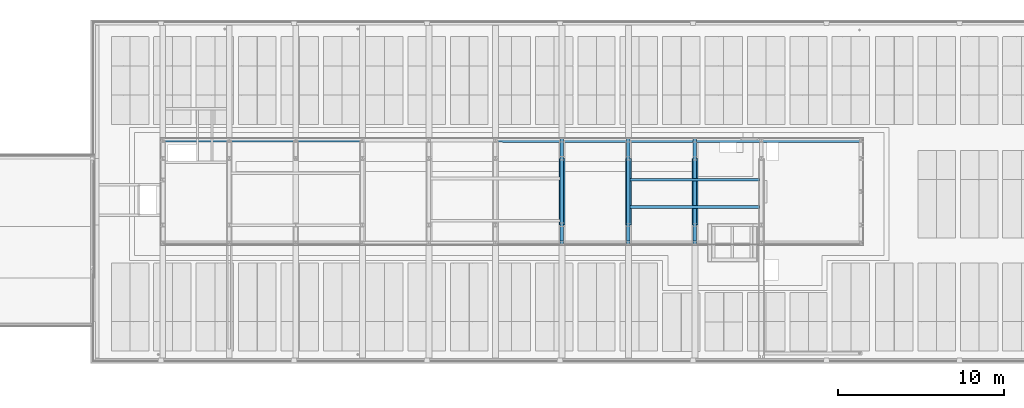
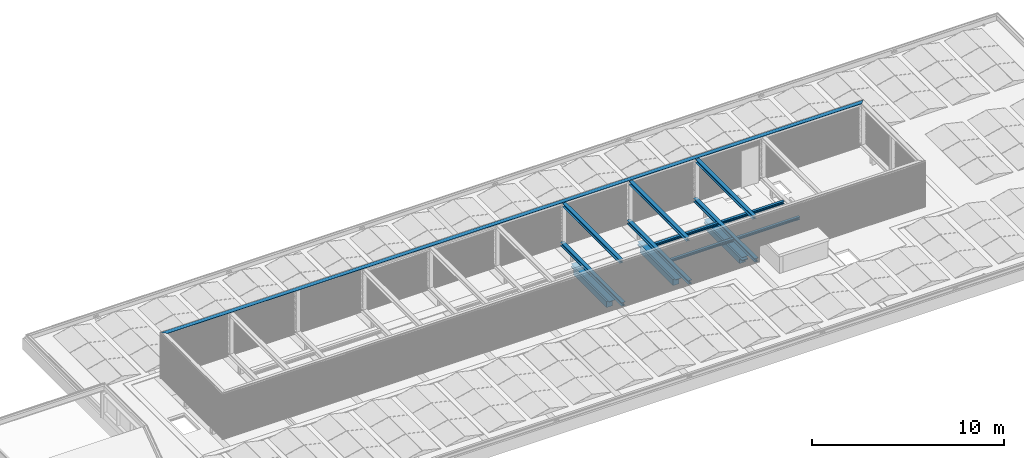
# One storey, part 12 of 63: 12 beams.
"""IFC2X3 building model written with IfcOpenShell, lengths in millimetres."""

from ifc_helpers import new_model, entity, si_unit, converted_unit, derived_unit, money_unit, direction, frame, origin_with_axes, place, context, subcontext, project, spatial, faceted_brep, material, type_object, element, save


model = new_model("IFC2X3")

# Units and contexts
model_context = context("Model", 3, precision=0.01, world=origin_with_axes(), true_north=direction((0.0, 1.0)))
body_context = subcontext(model_context, "Body", "Model", "MODEL_VIEW")
ifc_project = project(units=[si_unit("LENGTHUNIT", "METRE", prefix="MILLI"), si_unit("AREAUNIT", "SQUARE_METRE"), si_unit("VOLUMEUNIT", "CUBIC_METRE"), converted_unit("PLANEANGLEUNIT", "DEGREE", entity("IfcPlaneAngleMeasure", 0.0174532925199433), si_unit("PLANEANGLEUNIT", "RADIAN"), dimensions=[0, 0, 0, 0, 0, 0, 0]), money_unit("EUR"), converted_unit("TIMEUNIT", "Year", entity("IfcTimeMeasure", 31557600.0), si_unit("TIMEUNIT", "SECOND"), dimensions=[0, 0, 1, 0, 0, 0, 0]), si_unit("MASSUNIT", "GRAM", prefix="KILO"), si_unit("THERMODYNAMICTEMPERATUREUNIT", "DEGREE_CELSIUS"), si_unit("LUMINOUSINTENSITYUNIT", "LUMEN"), si_unit("ENERGYUNIT", "JOULE", prefix="MEGA"), derived_unit("THERMALCONDUCTANCEUNIT", [(si_unit("POWERUNIT", "WATT"), 1), (si_unit("LENGTHUNIT", "METRE"), -1), (si_unit("THERMODYNAMICTEMPERATUREUNIT", "KELVIN"), -1)]), derived_unit("SPECIFICHEATCAPACITYUNIT", [(si_unit("ENERGYUNIT", "JOULE"), 1), (si_unit("MASSUNIT", "GRAM", prefix="KILO"), -1), (si_unit("THERMODYNAMICTEMPERATUREUNIT", "KELVIN"), -1)]), derived_unit("MASSDENSITYUNIT", [(si_unit("MASSUNIT", "GRAM", prefix="KILO"), 1), (si_unit("VOLUMEUNIT", "CUBIC_METRE"), -1)])], contexts=[model_context])

# Site, building, storey
site_placement = place(None, origin_with_axes())
site = spatial("IfcSite", under=ifc_project, at=site_placement, Name="<site naam>", CompositionType="ELEMENT")
building_placement = place(site_placement, origin_with_axes())
building = spatial("IfcBuilding", under=site, at=building_placement, Name="<Naam gebouw>", CompositionType="ELEMENT")
storey_placement = place(building_placement, frame((0.0, 0.0, 12770.0), z_axis=(0.0, 0.0, 1.0), x_axis=(1.0, 0.0, 0.0)))
storey = spatial("IfcBuildingStorey", under=building, at=storey_placement, Name="04 4e verdieping", CompositionType="ELEMENT", Elevation=12770.0)

# Beams
ifc_material_1 = material(Name="staal C")
beam_type_1 = type_object("IfcBeamType", Name="HEB220 220 x 220", PredefinedType="BEAM")
beam_1_placement = place(storey_placement, frame((40000.00000000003, 13207.85679888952, 444.1514325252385), z_axis=(0.0, 0.0, 1.0), x_axis=(-1.0, 0.0, 0.0)))
element("IfcBeam", 1, at=beam_1_placement, inside=storey, type_object=beam_type_1, material=ifc_material_1, Name="Info_Balk_HEB220", ObjectType="BEAM", context=body_context, shape_type="Brep", body=[
    faceted_brep([(-109.9999999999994, 0.0, 115.5000000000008), (-109.9999999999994, 6400.00001151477, 115.5000000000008), (-109.9999999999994, 6400.00001151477, 99.50000000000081), (-109.9999999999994, 0.0, 99.50000000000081), (109.9999999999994, 0.0, 115.5000000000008), (109.9999999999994, 6400.00001151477, 115.5000000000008), (109.9999999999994, 6400.00001151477, 99.50000000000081), (4.750000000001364, 6400.00001151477, 99.50000000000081), (4.750000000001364, 6400.00001151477, -88.4999999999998), (109.9999999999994, 6400.00001151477, -88.4999999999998), (109.9999999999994, 6400.00001151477, -104.4999999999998), (-109.9999999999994, 6400.00001151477, -104.4999999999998), (-109.9999999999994, 6400.00001151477, -88.4999999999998), (-4.750000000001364, 6400.00001151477, -88.4999999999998), (-4.750000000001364, 6400.00001151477, 99.50000000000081), (-4.750000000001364, 0.0, 99.50000000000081), (-4.750000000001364, 0.0, -88.4999999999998), (-109.9999999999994, 0.0, -88.4999999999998), (-109.9999999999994, 0.0, -104.4999999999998), (109.9999999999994, 0.0, -104.4999999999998), (109.9999999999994, 0.0, -88.4999999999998), (4.750000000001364, 0.0, -88.4999999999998), (4.750000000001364, 0.0, 99.50000000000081), (109.9999999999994, 0.0, 99.50000000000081)], [[[0, 1, 2, 3]], [[4, 5, 1, 0]], [[2, 1, 5, 6, 7, 8, 9, 10, 11, 12, 13, 14]], [[3, 2, 14, 15]], [[4, 0, 3, 15, 16, 17, 18, 19, 20, 21, 22, 23]], [[23, 6, 5, 4]], [[22, 7, 6, 23]], [[21, 8, 7, 22]], [[20, 9, 8, 21]], [[19, 10, 9, 20]], [[18, 11, 10, 19]], [[17, 12, 11, 18]], [[16, 13, 12, 17]], [[15, 14, 13, 16]]]),
])
beam_2_placement = place(storey_placement, frame((40000.00000000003, 12987.85678737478, 3039.88580884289), z_axis=(0.0, 0.0, 1.0), x_axis=(-1.0, 0.0, 0.0)))
element("IfcBeam", 2, at=beam_2_placement, inside=storey, type_object=beam_type_1, material=ifc_material_1, Name="Info_Balk_HEB220", ObjectType="BEAM", context=body_context, shape_type="Brep", body=[
    faceted_brep([(-109.9999999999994, 0.0, 115.5000000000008), (-109.9999999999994, 5960.000000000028, 115.5000000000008), (-109.9999999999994, 5960.000000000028, 99.50000000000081), (-109.9999999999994, 0.0, 99.50000000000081), (109.9999999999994, 0.0, 115.5000000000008), (109.9999999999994, 5960.000000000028, 115.5000000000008), (109.9999999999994, 5960.000000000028, 99.50000000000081), (4.750000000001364, 5960.000000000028, 99.50000000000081), (4.750000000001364, 5960.000000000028, -88.4999999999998), (109.9999999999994, 5960.000000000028, -88.4999999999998), (109.9999999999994, 5960.000000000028, -104.4999999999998), (-109.9999999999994, 5960.000000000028, -104.4999999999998), (-109.9999999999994, 5960.000000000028, -88.4999999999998), (-4.750000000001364, 5960.000000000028, -88.4999999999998), (-4.750000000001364, 5960.000000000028, 99.50000000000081), (-4.750000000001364, 0.0, 99.50000000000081), (-4.750000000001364, 0.0, -88.4999999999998), (-109.9999999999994, 0.0, -88.4999999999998), (-109.9999999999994, 0.0, -104.4999999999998), (109.9999999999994, 0.0, -104.4999999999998), (109.9999999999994, 0.0, -88.4999999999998), (4.750000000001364, 0.0, -88.4999999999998), (4.750000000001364, 0.0, 99.50000000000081), (109.9999999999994, 0.0, 99.50000000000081)], [[[0, 1, 2, 3]], [[4, 5, 1, 0]], [[2, 1, 5, 6, 7, 8, 9, 10, 11, 12, 13, 14]], [[3, 2, 14, 15]], [[4, 0, 3, 15, 16, 17, 18, 19, 20, 21, 22, 23]], [[23, 6, 5, 4]], [[22, 7, 6, 23]], [[21, 8, 7, 22]], [[20, 9, 8, 21]], [[19, 10, 9, 20]], [[18, 11, 10, 19]], [[17, 12, 11, 18]], [[16, 13, 12, 17]], [[15, 14, 13, 16]]]),
])
beam_3_placement = place(storey_placement, frame((44000.00000000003, 13200.00001151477, 444.1514325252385), z_axis=(0.0, 0.0, 1.0), x_axis=(-1.0, 0.0, 0.0)))
element("IfcBeam", 3, at=beam_3_placement, inside=storey, type_object=beam_type_1, material=ifc_material_1, Name="Info_Balk_HEB220", ObjectType="BEAM", context=body_context, shape_type="Brep", body=[
    faceted_brep([(-109.9999999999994, 0.0, 115.5000000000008), (-109.9999999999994, 6400.00001151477, 115.5000000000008), (-109.9999999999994, 6400.00001151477, 99.50000000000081), (-109.9999999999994, 0.0, 99.50000000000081), (109.9999999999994, 0.0, 115.5000000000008), (109.9999999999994, 6400.00001151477, 115.5000000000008), (109.9999999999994, 6400.00001151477, 99.50000000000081), (4.750000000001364, 6400.00001151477, 99.50000000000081), (4.750000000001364, 6400.00001151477, -88.4999999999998), (109.9999999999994, 6400.00001151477, -88.4999999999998), (109.9999999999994, 6400.00001151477, -104.4999999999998), (-109.9999999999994, 6400.00001151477, -104.4999999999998), (-109.9999999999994, 6400.00001151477, -88.4999999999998), (-4.750000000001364, 6400.00001151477, -88.4999999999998), (-4.750000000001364, 6400.00001151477, 99.50000000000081), (-4.750000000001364, 0.0, 99.50000000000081), (-4.750000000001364, 0.0, -88.4999999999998), (-109.9999999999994, 0.0, -88.4999999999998), (-109.9999999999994, 0.0, -104.4999999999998), (109.9999999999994, 0.0, -104.4999999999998), (109.9999999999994, 0.0, -88.4999999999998), (4.750000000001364, 0.0, -88.4999999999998), (4.750000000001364, 0.0, 99.50000000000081), (109.9999999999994, 0.0, 99.50000000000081)], [[[0, 1, 2, 3]], [[4, 5, 1, 0]], [[2, 1, 5, 6, 7, 8, 9, 10, 11, 12, 13, 14]], [[3, 2, 14, 15]], [[4, 0, 3, 15, 16, 17, 18, 19, 20, 21, 22, 23]], [[23, 6, 5, 4]], [[22, 7, 6, 23]], [[21, 8, 7, 22]], [[20, 9, 8, 21]], [[19, 10, 9, 20]], [[18, 11, 10, 19]], [[17, 12, 11, 18]], [[16, 13, 12, 17]], [[15, 14, 13, 16]]]),
])
beam_4_placement = place(storey_placement, frame((44000.00000000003, 12980.00000000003, 3039.88580884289), z_axis=(0.0, 0.0, 1.0), x_axis=(-1.0, 0.0, 0.0)))
element("IfcBeam", 4, at=beam_4_placement, inside=storey, type_object=beam_type_1, material=ifc_material_1, Name="Info_Balk_HEB220", ObjectType="BEAM", context=body_context, shape_type="Brep", body=[
    faceted_brep([(-109.9999999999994, 0.0, 115.5000000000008), (-109.9999999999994, 5960.000000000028, 115.5000000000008), (-109.9999999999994, 5960.000000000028, 99.50000000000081), (-109.9999999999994, 0.0, 99.50000000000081), (109.9999999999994, 0.0, 115.5000000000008), (109.9999999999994, 5960.000000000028, 115.5000000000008), (109.9999999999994, 5960.000000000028, 99.50000000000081), (4.750000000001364, 5960.000000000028, 99.50000000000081), (4.750000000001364, 5960.000000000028, -88.4999999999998), (109.9999999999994, 5960.000000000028, -88.4999999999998), (109.9999999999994, 5960.000000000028, -104.4999999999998), (-109.9999999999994, 5960.000000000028, -104.4999999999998), (-109.9999999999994, 5960.000000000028, -88.4999999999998), (-4.750000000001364, 5960.000000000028, -88.4999999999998), (-4.750000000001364, 5960.000000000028, 99.50000000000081), (-4.750000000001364, 0.0, 99.50000000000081), (-4.750000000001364, 0.0, -88.4999999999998), (-109.9999999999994, 0.0, -88.4999999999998), (-109.9999999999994, 0.0, -104.4999999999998), (109.9999999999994, 0.0, -104.4999999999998), (109.9999999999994, 0.0, -88.4999999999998), (4.750000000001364, 0.0, -88.4999999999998), (4.750000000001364, 0.0, 99.50000000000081), (109.9999999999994, 0.0, 99.50000000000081)], [[[0, 1, 2, 3]], [[4, 5, 1, 0]], [[2, 1, 5, 6, 7, 8, 9, 10, 11, 12, 13, 14]], [[3, 2, 14, 15]], [[4, 0, 3, 15, 16, 17, 18, 19, 20, 21, 22, 23]], [[23, 6, 5, 4]], [[22, 7, 6, 23]], [[21, 8, 7, 22]], [[20, 9, 8, 21]], [[19, 10, 9, 20]], [[18, 11, 10, 19]], [[17, 12, 11, 18]], [[16, 13, 12, 17]], [[15, 14, 13, 16]]]),
])
beam_5_placement = place(storey_placement, frame((48000.00000000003, 13200.00001151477, 444.1514325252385), z_axis=(0.0, 0.0, 1.0), x_axis=(-1.0, 0.0, 0.0)))
element("IfcBeam", 5, at=beam_5_placement, inside=storey, type_object=beam_type_1, material=ifc_material_1, Name="Info_Balk_HEB220", ObjectType="BEAM", context=body_context, shape_type="Brep", body=[
    faceted_brep([(-109.9999999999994, 0.0, -88.4999999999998), (-109.9999999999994, 2473.372030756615, -88.4999999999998), (-109.9999999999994, 2473.372030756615, -91.49999999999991), (-109.9999999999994, 2397.372030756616, -91.49999999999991), (-109.9999999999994, 2397.372030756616, -104.4999999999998), (-109.9999999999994, 0.0, -104.4999999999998), (-4.750000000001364, 0.0, -88.4999999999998), (-4.750000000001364, 2473.372030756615, -88.4999999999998), (109.9999999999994, 2473.372030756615, -91.49999999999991), (-4.750000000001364, 2473.372030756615, 42.50000000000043), (4.750000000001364, 2473.372030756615, 42.50000000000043), (4.750000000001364, 2473.372030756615, -88.4999999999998), (109.9999999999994, 2473.372030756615, -88.4999999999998), (109.9999999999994, 2397.372030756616, -91.49999999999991), (109.9999999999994, 2397.372030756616, -104.4999999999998), (109.9999999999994, 0.0, -104.4999999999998), (109.9999999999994, 0.0, 99.50000000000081), (109.9999999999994, 0.0, 115.5000000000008), (-109.9999999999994, 0.0, 115.5000000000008), (-109.9999999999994, 0.0, 99.50000000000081), (-4.750000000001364, 0.0, 99.50000000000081), (109.9999999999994, 0.0, -88.4999999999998), (4.750000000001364, 0.0, -88.4999999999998), (4.750000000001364, 0.0, 99.50000000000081), (-4.750000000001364, 2397.372030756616, 42.50000000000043), (-4.750000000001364, 6400.00001151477, 99.50000000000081), (-4.750000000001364, 6400.00001151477, -88.4999999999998), (-4.750000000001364, 2481.372030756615, -88.4999999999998), (-4.750000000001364, 2481.372030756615, 42.50000000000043), (-4.750000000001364, 2557.372030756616, 42.50000000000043), (-4.750000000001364, 2557.372030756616, 55.50000000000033), (-4.750000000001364, 2397.372030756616, 55.50000000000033), (4.750000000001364, 2397.372030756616, 42.50000000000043), (4.750000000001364, 2557.372030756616, 42.50000000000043), (4.750000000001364, 2481.372030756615, 42.50000000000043), (4.750000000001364, 2481.372030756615, -88.4999999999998), (4.750000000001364, 6400.00001151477, -88.4999999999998), (4.750000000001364, 6400.00001151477, 99.50000000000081), (4.750000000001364, 2397.372030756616, 55.50000000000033), (4.750000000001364, 2557.372030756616, 55.50000000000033), (109.9999999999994, 6400.00001151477, 99.50000000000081), (109.9999999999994, 6400.00001151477, 115.5000000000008), (-109.9999999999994, 6400.00001151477, 115.5000000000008), (-109.9999999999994, 6400.00001151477, 99.50000000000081), (109.9999999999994, 6400.00001151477, -88.4999999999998), (109.9999999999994, 6400.00001151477, -104.4999999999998), (-109.9999999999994, 6400.00001151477, -104.4999999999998), (-109.9999999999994, 6400.00001151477, -88.4999999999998), (-109.9999999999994, 2481.372030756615, -88.4999999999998), (-109.9999999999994, 2481.372030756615, -91.49999999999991), (109.9999999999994, 2481.372030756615, -91.49999999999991), (109.9999999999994, 2481.372030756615, -88.4999999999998), (109.9999999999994, 2557.372030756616, -91.49999999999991), (109.9999999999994, 2557.372030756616, -104.4999999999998), (-109.9999999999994, 2557.372030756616, -104.4999999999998), (-109.9999999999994, 2557.372030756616, -91.49999999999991)], [[[0, 1, 2, 3, 4, 5]], [[6, 7, 1, 0]], [[8, 2, 1, 7, 9, 10, 11, 12]], [[13, 3, 2, 8]], [[14, 4, 3, 13]], [[5, 4, 14, 15]], [[16, 17, 18, 19, 20, 6, 0, 5, 15, 21, 22, 23]], [[24, 9, 7, 6, 20, 25, 26, 27, 28, 29, 30, 31]], [[10, 9, 24, 32]], [[33, 34, 35, 36, 37, 23, 22, 11, 10, 32, 38, 39]], [[21, 12, 11, 22]], [[13, 8, 12, 21, 15, 14]], [[17, 16, 40, 41]], [[18, 17, 41, 42]], [[19, 18, 42, 43]], [[20, 19, 43, 25]], [[16, 23, 37, 40]], [[25, 43, 42, 41, 40, 37, 36, 44, 45, 46, 47, 26]], [[47, 48, 27, 26]], [[28, 27, 48, 49, 50, 51, 35, 34]], [[33, 29, 28, 34]], [[39, 30, 29, 33]], [[38, 31, 30, 39]], [[32, 24, 31, 38]], [[36, 35, 51, 44]], [[50, 52, 53, 45, 44, 51]], [[45, 53, 54, 46]], [[55, 49, 48, 47, 46, 54]], [[50, 49, 55, 52]], [[52, 55, 54, 53]]]),
])
beam_6_placement = place(storey_placement, frame((48000.00000000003, 12980.00000000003, 3039.88580884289), z_axis=(0.0, 0.0, 1.0), x_axis=(-1.0, 0.0, 0.0)))
element("IfcBeam", 6, at=beam_6_placement, inside=storey, type_object=beam_type_1, material=ifc_material_1, Name="Info_Balk_HEB220", ObjectType="BEAM", context=body_context, shape_type="Brep", body=[
    faceted_brep([(-109.9999999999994, 0.0, 115.5000000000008), (-109.9999999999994, 5960.000000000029, 115.5000000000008), (-109.9999999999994, 5960.000000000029, 99.50000000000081), (-109.9999999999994, 0.0, 99.50000000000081), (109.9999999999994, 0.0, 115.5000000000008), (109.9999999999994, 5960.000000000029, 115.5000000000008), (109.9999999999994, 5960.000000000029, 99.50000000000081), (4.750000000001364, 5960.000000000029, 99.50000000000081), (4.750000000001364, 5960.000000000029, -88.4999999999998), (109.9999999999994, 5960.000000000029, -88.4999999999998), (109.9999999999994, 5960.000000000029, -104.4999999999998), (-109.9999999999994, 5960.000000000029, -104.4999999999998), (-109.9999999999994, 5960.000000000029, -88.4999999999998), (-4.750000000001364, 5960.000000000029, -88.4999999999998), (-4.750000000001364, 5960.000000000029, 99.50000000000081), (-4.750000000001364, 0.0, 99.50000000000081), (-4.750000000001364, 0.0, -88.4999999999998), (-109.9999999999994, 0.0, -88.4999999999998), (-109.9999999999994, 0.0, -104.4999999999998), (109.9999999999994, 0.0, -104.4999999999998), (109.9999999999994, 0.0, -88.4999999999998), (4.750000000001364, 0.0, -88.4999999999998), (4.750000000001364, 0.0, 99.50000000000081), (109.9999999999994, 0.0, 99.50000000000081)], [[[0, 1, 2, 3]], [[4, 5, 1, 0]], [[2, 1, 5, 6, 7, 8, 9, 10, 11, 12, 13, 14]], [[3, 2, 14, 15]], [[4, 0, 3, 15, 16, 17, 18, 19, 20, 21, 22, 23]], [[23, 6, 5, 4]], [[22, 7, 6, 23]], [[21, 8, 7, 22]], [[20, 9, 8, 21]], [[19, 10, 9, 20]], [[18, 11, 10, 19]], [[17, 12, 11, 18]], [[16, 13, 12, 17]], [[15, 14, 13, 16]]]),
])
ifc_material_2 = material(Name="beton_gewapend C")
beam_type_2 = type_object("IfcBeamType", Name="beton_gewapend C 350 x 550", PredefinedType="BEAM")
beam_7_placement = place(storey_placement, frame((44000.00000000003, 12000.00000000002, -59.99999999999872), z_axis=(0.0, 0.0, 1.0), x_axis=(-1.0, 0.0, 0.0)))
element("IfcBeam", 7, at=beam_7_placement, inside=storey, type_object=beam_type_2, material=ifc_material_2, Name="28_Balk_beton_gewapend", ObjectType="BEAM", context=body_context, shape_type="Brep", body=[
    faceted_brep([(174.9999999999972, 0.0, -159.9999853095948), (174.9999999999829, 3725.0, -159.9999853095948), (-175.0000000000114, 3725.0, -159.9999853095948), (-174.9999999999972, 0.0, -159.9999853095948), (174.9999999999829, 275.0000000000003, -550.0000000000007), (174.9999999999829, 3725.0, -550.0000000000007), (174.9999999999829, 0.0, -220.0000000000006), (174.9999999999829, 275.0000000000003, -220.0000000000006), (-175.0000000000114, 3725.0, -550.0000000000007), (-175.0000000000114, 275.0000000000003, -550.0000000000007), (-175.0000000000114, 275.0000000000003, -220.0000000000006), (-175.0000000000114, 0.0, -220.0000000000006)], [[[0, 1, 2, 3]], [[4, 5, 1, 0, 6, 7]], [[5, 8, 2, 1]], [[3, 2, 8, 9, 10, 11]], [[3, 11, 6, 0]], [[9, 8, 5, 4]], [[7, 6, 11, 10]], [[7, 10, 9, 4]]]),
    faceted_brep([(-174.9999999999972, 4005.546149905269, 0.0), (-174.9999999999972, 4005.546149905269, -9.99998530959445), (-174.9999999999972, 0.0, -9.99998530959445), (-174.9999999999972, 0.0, 0.0), (174.9999999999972, 4005.546149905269, 0.0), (174.9999999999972, 4005.546149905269, -9.99998530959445), (174.9999999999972, 0.0, -9.99998530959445), (174.9999999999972, 0.0, 0.0)], [[[0, 1, 2, 3]], [[4, 5, 1, 0]], [[5, 6, 2, 1]], [[3, 2, 6, 7]], [[3, 7, 4, 0]], [[7, 6, 5, 4]]]),
])
beam_8_placement = place(storey_placement, frame((48000.00000000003, 12000.00000000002, -59.99999999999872), z_axis=(0.0, 0.0, 1.0), x_axis=(-1.0, 0.0, 0.0)))
element("IfcBeam", 8, at=beam_8_placement, inside=storey, type_object=beam_type_2, material=ifc_material_2, Name="28_Balk_beton_gewapend", ObjectType="BEAM", context=body_context, shape_type="Brep", body=[
    faceted_brep([(-175.0000000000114, 4005.546149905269, -220.0000000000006), (-175.0000000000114, 3725.0, -220.0000000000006), (-175.0000000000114, 3725.0, -550.0000000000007), (-175.0000000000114, 275.0000000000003, -550.0000000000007), (-175.0000000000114, 275.0000000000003, -220.0000000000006), (-175.0000000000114, 0.0, -220.0000000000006), (-174.9999999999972, 0.0, -159.9999853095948), (-174.9999999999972, 4005.546149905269, -159.9999853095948), (174.9999999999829, 3725.0, -220.0000000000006), (174.9999999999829, 4005.546149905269, -220.0000000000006), (174.9999999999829, 3725.0, -550.0000000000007), (174.9999999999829, 275.0000000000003, -550.0000000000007), (174.9999999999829, 275.0000000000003, -220.0000000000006), (174.9999999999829, 0.0, -220.0000000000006), (174.9999999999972, 0.0, -159.9999853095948), (174.9999999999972, 4005.546149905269, -159.9999853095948)], [[[0, 1, 2, 3, 4, 5, 6, 7]], [[8, 1, 0, 9]], [[10, 2, 1, 8]], [[3, 2, 10, 11]], [[12, 4, 3, 11]], [[12, 13, 5, 4]], [[6, 5, 13, 14]], [[14, 15, 7, 6]], [[15, 9, 0, 7]], [[10, 8, 9, 15, 14, 13, 12, 11]]]),
    faceted_brep([(-174.9999999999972, 4005.546149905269, 0.0), (-174.9999999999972, 4005.546149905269, -9.99998530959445), (-174.9999999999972, 0.0, -9.99998530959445), (-174.9999999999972, 0.0, 0.0), (174.9999999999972, 4005.546149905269, 0.0), (174.9999999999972, 4005.546149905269, -9.99998530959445), (174.9999999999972, 0.0, -9.99998530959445), (174.9999999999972, 0.0, 0.0)], [[[0, 1, 2, 3]], [[4, 5, 1, 0]], [[5, 6, 2, 1]], [[3, 2, 6, 7]], [[3, 7, 4, 0]], [[7, 6, 5, 4]]]),
])
beam_9_placement = place(storey_placement, frame((40000.00000000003, 12000.00000000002, -59.99999999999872), z_axis=(0.0, 0.0, 1.0), x_axis=(-1.0, 0.0, 0.0)))
element("IfcBeam", 9, at=beam_9_placement, inside=storey, type_object=beam_type_2, material=ifc_material_2, Name="28_Balk_beton_gewapend", ObjectType="BEAM", context=body_context, shape_type="Brep", body=[
    faceted_brep([(174.9999999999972, 0.0, -159.9999853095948), (174.9999999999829, 3725.0, -159.9999853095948), (-175.0000000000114, 3725.0, -159.9999853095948), (-174.9999999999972, 0.0, -159.9999853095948), (174.9999999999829, 275.0000000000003, -550.0000000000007), (174.9999999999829, 3725.0, -550.0000000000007), (174.9999999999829, 0.0, -220.0000000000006), (174.9999999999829, 275.0000000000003, -220.0000000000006), (-175.0000000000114, 3725.0, -550.0000000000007), (-175.0000000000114, 275.0000000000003, -550.0000000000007), (-175.0000000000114, 275.0000000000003, -220.0000000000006), (-175.0000000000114, 0.0, -220.0000000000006)], [[[0, 1, 2, 3]], [[4, 5, 1, 0, 6, 7]], [[5, 8, 2, 1]], [[3, 2, 8, 9, 10, 11]], [[3, 11, 6, 0]], [[9, 8, 5, 4]], [[7, 6, 11, 10]], [[7, 10, 9, 4]]]),
    faceted_brep([(-174.9999999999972, 4005.546149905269, 0.0), (-174.9999999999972, 4005.546149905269, -9.99998530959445), (-174.9999999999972, 0.0, -9.99998530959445), (-174.9999999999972, 0.0, 0.0), (174.9999999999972, 4005.546149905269, 0.0), (174.9999999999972, 4005.546149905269, -9.99998530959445), (174.9999999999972, 0.0, -9.99998530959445), (174.9999999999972, 0.0, 0.0)], [[[0, 1, 2, 3]], [[4, 5, 1, 0]], [[5, 6, 2, 1]], [[3, 2, 6, 7]], [[3, 7, 4, 0]], [[7, 6, 5, 4]]]),
])
beam_type_3 = type_object("IfcBeamType", Name="HEB160 160 x 160", PredefinedType="BEAM")
beam_10_placement = place(storey_placement, frame((44110.00000000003, 9082.627980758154, 414.1514325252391), z_axis=(0.0, 0.0, 1.0), x_axis=(0.0, -1.0, 0.0)))
element("IfcBeam", 10, at=beam_10_placement, inside=storey, type_object=beam_type_3, material=ifc_material_1, Name="Info_Balk_HEB160", ObjectType="BEAM", context=body_context, shape_type="Brep", body=[
    faceted_brep([(80.00000000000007, 0.0, 85.49999999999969), (80.00000000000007, 3885.249999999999, 85.49999999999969), (-80.00000000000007, 3885.249999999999, 85.49999999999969), (-80.00000000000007, 0.0, 85.49999999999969), (80.00000000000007, 0.0, 72.49999999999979), (80.00000000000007, 3885.249999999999, 72.49999999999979), (-4.000000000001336, 3885.249999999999, 72.49999999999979), (-80.00000000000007, 3885.249999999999, 72.49999999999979), (3.999999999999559, 3885.249999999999, 72.49999999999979), (3.999999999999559, 3885.249999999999, -58.50000000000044), (-4.000000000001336, 3885.249999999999, -58.50000000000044), (-80.00000000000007, 0.0, 72.49999999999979), (-3.999999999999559, 0.0, 72.49999999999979), (-3.999999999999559, 0.0, -61.50000000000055), (-80.00000000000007, 0.0, -61.50000000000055), (-80.00000000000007, 0.0, -74.50000000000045), (80.00000000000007, 0.0, -74.50000000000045), (80.00000000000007, 0.0, -61.50000000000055), (3.999999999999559, 0.0, -61.50000000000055), (3.999999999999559, 0.0, 72.49999999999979), (3.999999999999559, 3780.000000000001, -58.50000000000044), (3.999999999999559, 3780.000000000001, -61.50000000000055), (-4.000000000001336, 3780.000000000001, -58.50000000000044), (-4.000000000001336, 3780.000000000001, -61.50000000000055), (-80.00000000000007, 3780.000000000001, -61.50000000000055), (-80.00000000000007, 3780.000000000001, -74.50000000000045), (80.00000000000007, 3780.000000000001, -74.50000000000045), (80.00000000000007, 3780.000000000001, -61.50000000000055)], [[[0, 1, 2, 3]], [[4, 5, 1, 0]], [[6, 7, 2, 1, 5, 8, 9, 10]], [[3, 2, 7, 11]], [[4, 0, 3, 11, 12, 13, 14, 15, 16, 17, 18, 19]], [[19, 8, 5, 4]], [[11, 7, 6, 12]], [[20, 9, 8, 19, 18, 21]], [[20, 22, 10, 9]], [[10, 22, 23, 13, 12, 6]], [[13, 23, 24, 14]], [[14, 24, 25, 15]], [[15, 25, 26, 16]], [[16, 26, 27, 17]], [[17, 27, 21, 18]], [[26, 25, 24, 23, 22, 20, 21, 27]]]),
    faceted_brep([(-80.00000000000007, 7780.000078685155, -74.50000000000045), (-80.00000000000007, 4000.0, -74.50000000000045), (-80.00000000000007, 4000.0, -61.50000000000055), (-80.00000000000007, 7780.000078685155, -61.50000000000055), (80.00000000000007, 7780.000078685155, -74.50000000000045), (80.00000000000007, 4000.0, -74.50000000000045), (-4.000000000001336, 4000.0, -58.50000000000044), (-4.000000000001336, 4000.0, -61.50000000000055), (80.00000000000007, 4000.0, -61.50000000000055), (3.999999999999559, 4000.0, -61.50000000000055), (3.999999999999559, 4000.0, -58.50000000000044), (-4.000000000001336, 7780.000078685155, -61.50000000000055), (-4.000000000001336, 7780.000078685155, 72.49999999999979), (-80.00000000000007, 7780.000078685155, 72.49999999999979), (-80.00000000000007, 7780.000078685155, 85.49999999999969), (80.00000000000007, 7780.000078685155, 85.49999999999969), (80.00000000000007, 7780.000078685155, 72.49999999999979), (3.999999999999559, 7780.000078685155, 72.49999999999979), (3.999999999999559, 7780.000078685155, -61.50000000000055), (80.00000000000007, 7780.000078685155, -61.50000000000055), (-4.000000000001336, 3894.750000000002, -58.50000000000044), (-4.000000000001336, 3894.750000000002, 72.49999999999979), (3.999999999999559, 3894.750000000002, -58.50000000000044), (3.999999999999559, 3894.750000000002, 72.49999999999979), (-80.00000000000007, 3894.750000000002, 72.49999999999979), (-80.00000000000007, 3894.750000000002, 85.49999999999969), (80.00000000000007, 3894.750000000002, 85.49999999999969), (80.00000000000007, 3894.750000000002, 72.49999999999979)], [[[0, 1, 2, 3]], [[4, 5, 1, 0]], [[6, 7, 2, 1, 5, 8, 9, 10]], [[3, 2, 7, 11]], [[12, 13, 14, 15, 16, 17, 18, 19, 4, 0, 3, 11]], [[19, 8, 5, 4]], [[6, 20, 21, 12, 11, 7]], [[18, 9, 8, 19]], [[22, 10, 9, 18, 17, 23]], [[22, 20, 6, 10]], [[12, 21, 24, 13]], [[13, 24, 25, 14]], [[14, 25, 26, 15]], [[15, 26, 27, 16]], [[16, 27, 23, 17]], [[27, 26, 25, 24, 21, 20, 22, 23]]]),
])
beam_11_placement = place(storey_placement, frame((44110.00000000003, 10722.62798075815, 414.1514325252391), z_axis=(0.0, 0.0, 1.0), x_axis=(0.0, -1.0, 0.0)))
element("IfcBeam", 11, at=beam_11_placement, inside=storey, type_object=beam_type_3, material=ifc_material_1, Name="Info_Balk_HEB160", ObjectType="BEAM", context=body_context, shape_type="Brep", body=[
    faceted_brep([(-80.00000000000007, 0.0, 85.49999999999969), (-80.00000000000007, 7780.000078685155, 85.49999999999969), (-80.00000000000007, 7780.000078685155, 72.49999999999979), (-80.00000000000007, 0.0, 72.49999999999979), (80.00000000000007, 0.0, 85.49999999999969), (80.00000000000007, 7780.000078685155, 85.49999999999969), (80.00000000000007, 7780.000078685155, 72.49999999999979), (3.999999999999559, 7780.000078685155, 72.49999999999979), (3.999999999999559, 7780.000078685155, -61.50000000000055), (80.00000000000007, 7780.000078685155, -61.50000000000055), (80.00000000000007, 7780.000078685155, -74.50000000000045), (-80.00000000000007, 7780.000078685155, -74.50000000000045), (-80.00000000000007, 7780.000078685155, -61.50000000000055), (-4.000000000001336, 7780.000078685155, -61.50000000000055), (-4.000000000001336, 7780.000078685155, 72.49999999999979), (-3.999999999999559, 0.0, 72.49999999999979), (-3.999999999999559, 0.0, -61.50000000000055), (-80.00000000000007, 0.0, -61.50000000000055), (-80.00000000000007, 0.0, -74.50000000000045), (80.00000000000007, 0.0, -74.50000000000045), (80.00000000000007, 0.0, -61.50000000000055), (3.999999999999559, 0.0, -61.50000000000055), (3.999999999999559, 0.0, 72.49999999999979), (80.00000000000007, 0.0, 72.49999999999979)], [[[0, 1, 2, 3]], [[4, 5, 1, 0]], [[2, 1, 5, 6, 7, 8, 9, 10, 11, 12, 13, 14]], [[3, 2, 14, 15]], [[4, 0, 3, 15, 16, 17, 18, 19, 20, 21, 22, 23]], [[23, 6, 5, 4]], [[22, 7, 6, 23]], [[21, 8, 7, 22]], [[20, 9, 8, 21]], [[19, 10, 9, 20]], [[18, 11, 10, 19]], [[17, 12, 11, 18]], [[16, 13, 12, 17]], [[15, 14, 13, 16]]]),
])
ifc_material_3 = material(Name="staal")
beam_type_4 = type_object("IfcBeamType", Name="stalen gevelschermafdekker 255 x 35", PredefinedType="BEAM")
beam_12_placement = place(storey_placement, frame((58145.00007843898, 13234.99777370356, 2921.405981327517), z_axis=(0.0, 0.0, 1.0), x_axis=(0.0001309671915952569, 0.9999999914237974, 0.0)))
element("IfcBeam", 12, at=beam_12_placement, inside=storey, type_object=beam_type_4, material=ifc_material_3, Name="Info_Balk_stalen", ObjectType="BEAM", context=body_context, shape_type="Brep", body=[
    faceted_brep([(-264.9874219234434, 42024.97839085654, 284.0000084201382), (-264.9874219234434, 264.9527195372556, 284.0000084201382), (-9.99999999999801, 9.998690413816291, 284.0000084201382), (-9.999999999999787, 42279.99920995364, 284.0000084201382), (-264.9874219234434, 42024.97839085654, 259.0000084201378), (-264.9874219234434, 264.9527195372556, 259.0000084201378), (-11.01997556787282, 11.01853240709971, 283.0000014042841), (-11.01997556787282, 11.01853240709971, 249.000008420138), (-9.99999999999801, 9.998690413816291, 249.000008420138), (-264.0199747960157, 263.9853991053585, 259.0000084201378), (-264.0199747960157, 263.9853991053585, 283.0000014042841), (-9.999999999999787, 42279.99920995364, 249.000008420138), (-264.0199747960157, 42025.9459646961, 259.0000084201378), (-11.01997556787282, 42278.97910079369, 249.000008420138), (-11.01997556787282, 42278.97910079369, 283.0000014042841), (-264.0199747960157, 42025.9459646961, 283.0000014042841)], [[[0, 1, 2, 3]], [[4, 5, 1, 0]], [[6, 7, 8, 2, 1, 5, 9, 10]], [[3, 2, 8, 11]], [[12, 4, 0, 3, 11, 13, 14, 15]], [[12, 9, 5, 4]], [[13, 7, 6, 14]], [[11, 8, 7, 13]], [[15, 10, 9, 12]], [[14, 6, 10, 15]]]),
])

save(model, "model.ifc")
